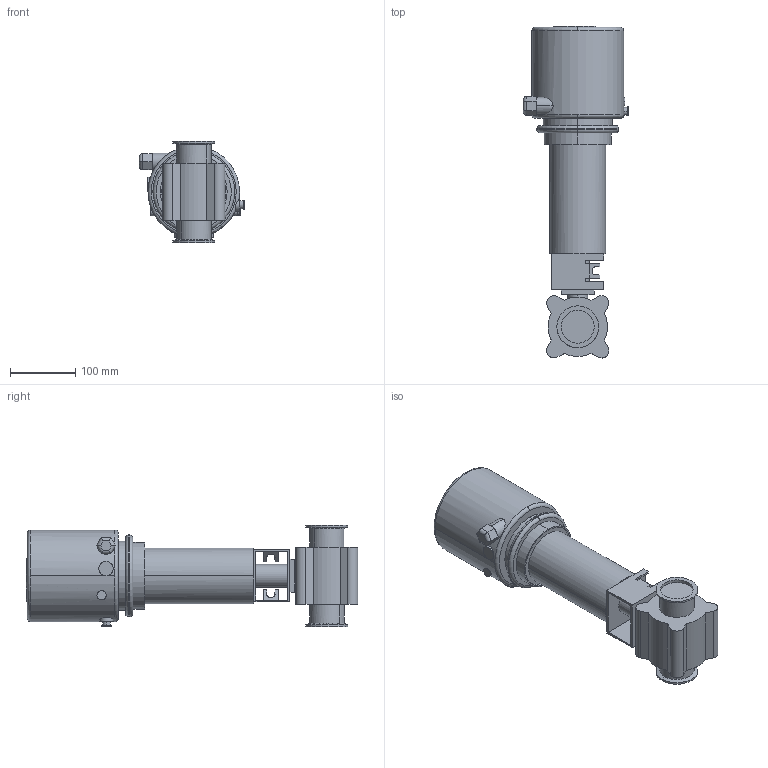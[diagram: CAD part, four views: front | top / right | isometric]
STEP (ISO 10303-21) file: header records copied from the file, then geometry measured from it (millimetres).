
FILE_DESCRIPTION(('Creo Elements/Direct Modeling STEP Export'),'2;1');
FILE_NAME('BLV1-DN50-NC-12CL-CU4.stp','2019-05-09T14:17:33',(''),(''),'Creo Elements/Direct Modeling STEP processor for AP214 (Solid Model)','Creo Elements/Direct Modeling 19.0F 14-Feb-2017 (C) Parametric Technology GmbH','');
FILE_SCHEMA(('AUTOMOTIVE_DESIGN { 1 0 10303 214 1 1 1 1 }'));
Length unit declared in the file: millimetre
Products named in the file (2): BLV1-DN50-NC-12CL-CU4
Assembly tree (1 placements, depth 2):
  BLV1-DN50-NC-12CL-CU4
    BLV1-DN50-NC-12CL-CU4
Bounding box: 161.4 x 507.56 x 155.5 mm (x, y, z)
Volume: 4415820.1 mm3; surface area: 271724.1 mm2
Topology: 1 solids, 1 shells, 235 faces, 602 edges, 393 vertices
Faces by surface type: plane 104, cylinder 84, extrusion 33, torus 10, cone 4
Entity records: 10446 total; most frequent: CARTESIAN_POINT 5103, ORIENTED_EDGE 1206, DIRECTION 936, EDGE_CURVE 603, VERTEX_POINT 393, VECTOR 320, AXIS2_PLACEMENT_3D 308, LINE 287
